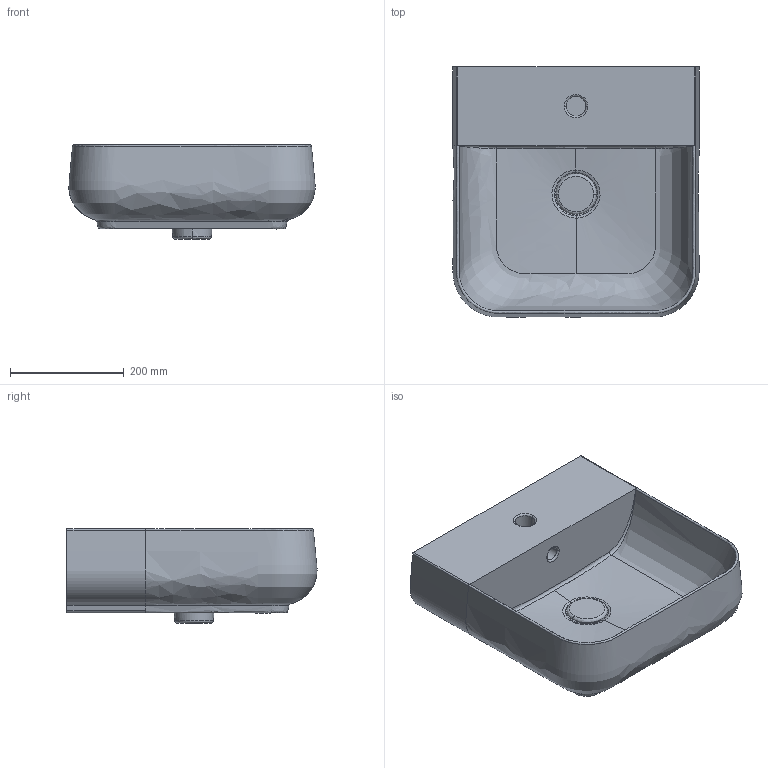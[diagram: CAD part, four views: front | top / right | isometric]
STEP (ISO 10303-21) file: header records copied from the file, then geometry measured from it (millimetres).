
FILE_DESCRIPTION(/* description */ (''),/* implementation_level */ '2;1');
FILE_NAME(/* name */ 'QUBE_2',/* time_stamp */ '2020-11-16T11:47:02+01:00',/* author */ (''),/* organization */ (''),/* preprocessor_version */ 'ST-DEVELOPER v15',/* originating_system */ '',/* authorisation */ '');
FILE_SCHEMA (('AUTOMOTIVE_DESIGN'));
Length unit declared in the file: millimetre
Products named in the file (1): Document
Bounding box: 434.01 x 440.74 x 166.48 mm (x, y, z)
Volume: 12529155.4 mm3; surface area: 713942.9 mm2
Topology: 2 solids, 4 shells, 66 faces, 154 edges, 92 vertices
Faces by surface type: bspline 56, plane 10
Entity records: 27839 total; most frequent: CARTESIAN_POINT 26892, ORIENTED_EDGE 300, EDGE_CURVE 152, VERTEX_POINT 92, B_SPLINE_CURVE_WITH_KNOTS 73, EDGE_LOOP 68, ADVANCED_FACE 66, FACE_OUTER_BOUND 66
